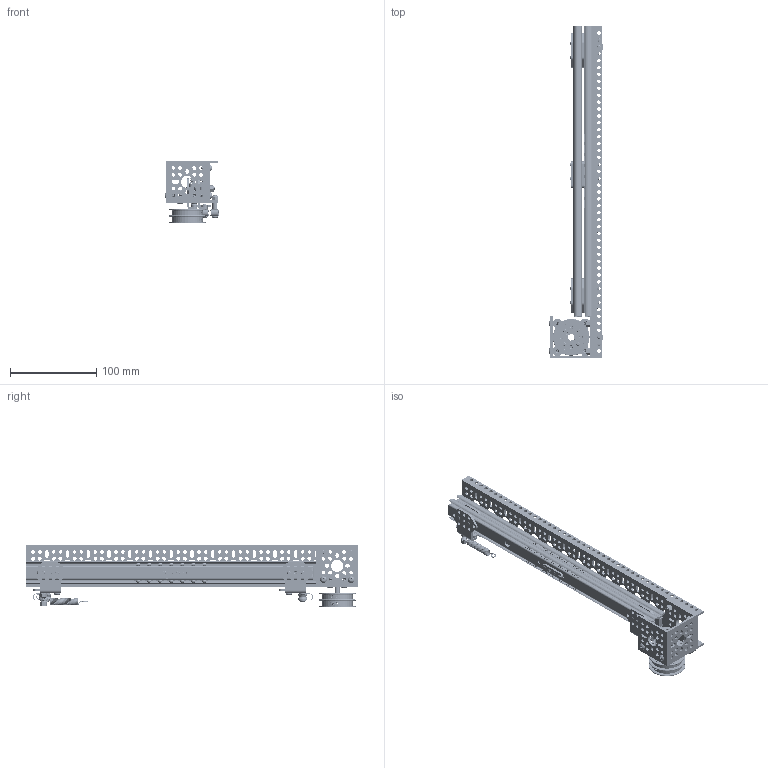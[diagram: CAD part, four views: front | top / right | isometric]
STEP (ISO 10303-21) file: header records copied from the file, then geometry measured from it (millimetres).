
FILE_DESCRIPTION (( 'STEP AP203' ), '1' );
FILE_NAME ('3210-0002-0002 Assembly.STEP', '2022-07-01T20:08:20', ( '' ), ( '' ), 'SwSTEP 2.0', 'SolidWorks 2016', '' );
FILE_SCHEMA (( 'CONFIG_CONTROL_DESIGN' ));
Length unit declared in the file: millimetre
Products named in the file (29): 3210-0002-0002 Assembly; 2800-0004-0014_90128A207; 2501-0001-0001; Ball; 3407-0002-0112; In; 2802-0004-0020_92095A480; Cage; 2500-0014-0336 assembly; 1201-0043-0002; Out; 2915-0001-0002; 1121-0015-0384; 2807-0407-0200 for string loom; 1502-0006-0080; 2914-0002-0001 assembly; 1309-0016-4008 assembly; 2802-0004-0014; 2802-0004-0025_92095A480; 3408-0001-0001 assembly; 2802-0004-0010_92095A480; 2914-0002-0001; 2501-0001-0002; 1609-0610-0004; 2812-0004-0007_90576A103; 1120-0001-0048; 1309-0016-4008; 2802-0004-0005_92095A480
Assembly tree (100 placements, depth 4):
  3210-0002-0002 Assembly
    1121-0015-0384
    1120-0001-0048
    1201-0043-0002
    1309-0016-4008 assembly
      1309-0016-4008
      2800-0004-0014_90128A207  x2
    2802-0004-0014  x8
    2802-0004-0025_92095A480  x2
    3408-0001-0001 assembly  x4
      2914-0002-0001 assembly
        2914-0002-0001
        2807-0407-0200 for string loom  x2
      1609-0610-0004
    1502-0006-0080  x2
    2812-0004-0007_90576A103  x12
    2802-0004-0010_92095A480  x14
    2500-0014-0336 assembly  x2
      In
      Out
      Cage
        Cage
        Ball  x7
    2501-0001-0001  x6
    2501-0001-0002  x4
    2802-0004-0005_92095A480  x20
    2802-0004-0020_92095A480
    3407-0002-0112
    2915-0001-0002
Bounding box: 63.45 x 384 x 71.62 mm (x, y, z)
Volume: 131329.5 mm3; surface area: 226496.2 mm2
Topology: 133 solids, 163 shells, 11254 faces, 30786 edges, 20020 vertices
Faces by surface type: cylinder 5526, plane 2866, bspline 1211, cone 1185, sphere 258, torus 208
Full cylindrical faces by diameter (mm): 3.5 x2
Entity records: 638220 total; most frequent: CARTESIAN_POINT 499165, ORIENTED_EDGE 32014, DIRECTION 23220, EDGE_CURVE 16019, VERTEX_POINT 10547, AXIS2_PLACEMENT_3D 8262, EDGE_LOOP 6720, LINE 6696
